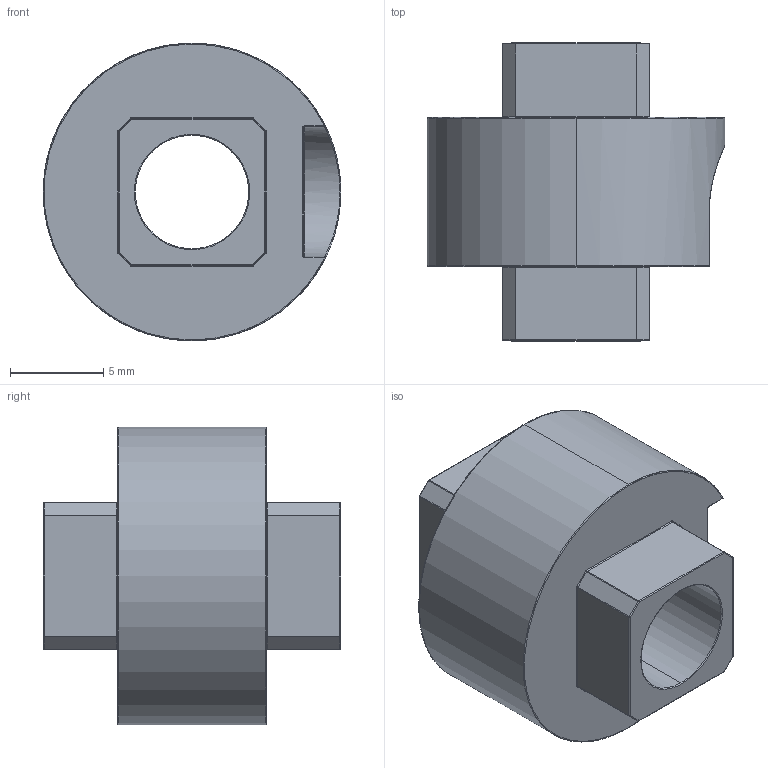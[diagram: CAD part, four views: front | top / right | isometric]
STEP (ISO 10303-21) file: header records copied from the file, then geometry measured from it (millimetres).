
FILE_DESCRIPTION (( 'STEP AP214' ), '1' );
FILE_NAME ('Adapter.STEP', '2010-03-03T15:10:24', ( '£ukaszC' ), ( '' ), 'SwSTEP 2.0', 'SolidWorks 2008', '' );
FILE_SCHEMA (( 'AUTOMOTIVE_DESIGN' ));
Length unit declared in the file: millimetre
Products named in the file (1): Adapter
Bounding box: 16 x 16 x 16 mm (x, y, z)
Volume: 1561.5 mm3; surface area: 1296.4 mm2
Topology: 1 solids, 1 shells, 120 faces, 285 edges, 169 vertices
Faces by surface type: cylinder 60, bspline 37, plane 23
Entity records: 4364 total; most frequent: CARTESIAN_POINT 1810, ORIENTED_EDGE 570, DIRECTION 493, EDGE_CURVE 285, AXIS2_PLACEMENT_3D 189, VERTEX_POINT 169, EDGE_LOOP 124, FACE_OUTER_BOUND 120
